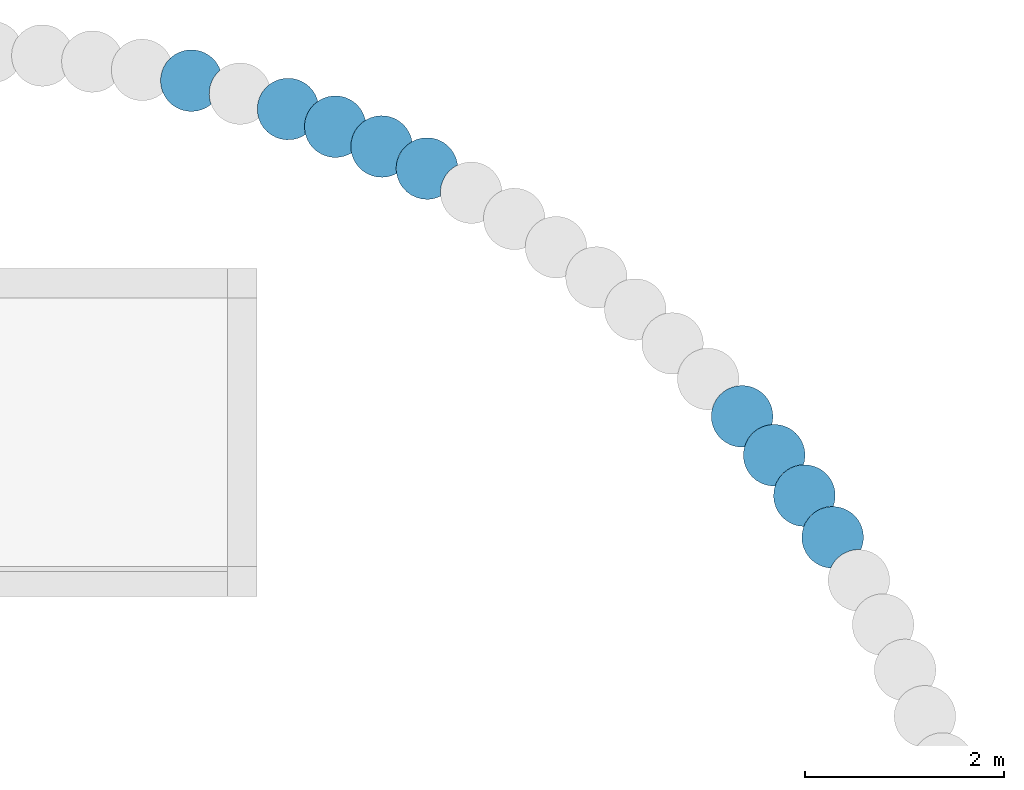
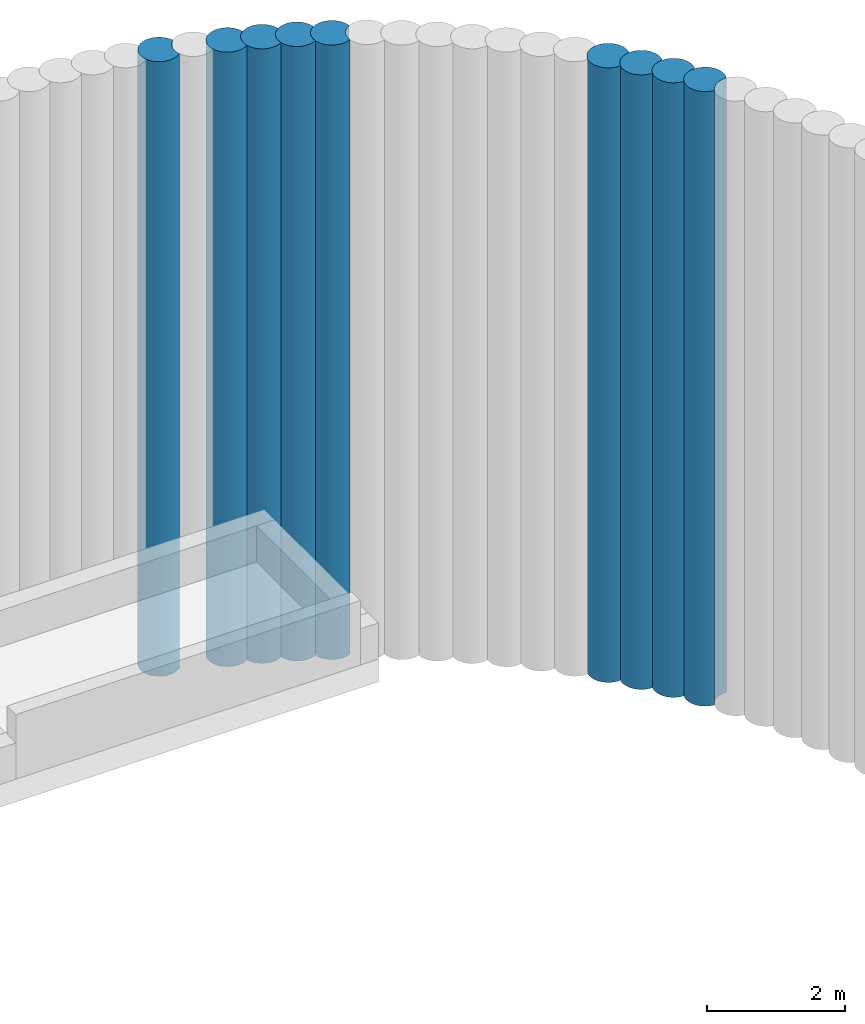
# One storey, part 14 of 16: 9 slabs.
"""IFC2X3 building model written with IfcOpenShell, lengths in centimetres."""

from ifc_helpers import new_model, entity, si_unit, converted_unit, derived_unit, direction, frame, frame_2d, origin, place, context, subcontext, project, spatial, polyline, circle_curve, parameter, trimmed, segment, composite_curve, outline, extrude, material, element, save


model = new_model("IFC2X3")

# Units and contexts
model_context = context("Model", 3, precision=0.001, world=origin(), true_north=direction((6.12303176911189e-17, 1.0)))
body_context = subcontext(model_context, "Body", "Model", "MODEL_VIEW")
ifc_project = project(units=[si_unit("LENGTHUNIT", "METRE", prefix="CENTI"), si_unit("AREAUNIT", "SQUARE_METRE"), si_unit("VOLUMEUNIT", "CUBIC_METRE"), converted_unit("PLANEANGLEUNIT", "DEGREE", entity("IfcRatioMeasure", 0.0174532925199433), si_unit("PLANEANGLEUNIT", "RADIAN"), dimensions=[0, 0, 0, 0, 0, 0, 0]), si_unit("MASSUNIT", "GRAM", prefix="KILO"), derived_unit("MASSDENSITYUNIT", [(si_unit("MASSUNIT", "GRAM", prefix="KILO"), 1), (si_unit("LENGTHUNIT", "METRE"), -3)]), si_unit("TIMEUNIT", "SECOND"), si_unit("FREQUENCYUNIT", "HERTZ"), si_unit("THERMODYNAMICTEMPERATUREUNIT", "DEGREE_CELSIUS"), derived_unit("THERMALTRANSMITTANCEUNIT", [(si_unit("MASSUNIT", "GRAM", prefix="KILO"), 1), (si_unit("THERMODYNAMICTEMPERATUREUNIT", "KELVIN"), -1), (si_unit("TIMEUNIT", "SECOND"), -3)]), derived_unit("VOLUMETRICFLOWRATEUNIT", [(si_unit("LENGTHUNIT", "METRE"), 3), (si_unit("TIMEUNIT", "SECOND"), -1)]), si_unit("ELECTRICCURRENTUNIT", "AMPERE"), si_unit("ELECTRICVOLTAGEUNIT", "VOLT"), si_unit("POWERUNIT", "WATT"), si_unit("FORCEUNIT", "NEWTON", prefix="KILO"), si_unit("ILLUMINANCEUNIT", "LUX"), si_unit("LUMINOUSFLUXUNIT", "LUMEN"), si_unit("LUMINOUSINTENSITYUNIT", "CANDELA"), derived_unit("USERDEFINED", [(si_unit("MASSUNIT", "GRAM", prefix="KILO"), -1), (si_unit("LENGTHUNIT", "METRE"), -2), (si_unit("TIMEUNIT", "SECOND"), 3), (si_unit("LUMINOUSFLUXUNIT", "LUMEN"), 1)]), derived_unit("LINEARVELOCITYUNIT", [(si_unit("LENGTHUNIT", "METRE"), 1), (si_unit("TIMEUNIT", "SECOND"), -1)]), si_unit("PRESSUREUNIT", "PASCAL"), derived_unit("USERDEFINED", [(si_unit("LENGTHUNIT", "METRE"), -2), (si_unit("MASSUNIT", "GRAM", prefix="KILO"), 1), (si_unit("TIMEUNIT", "SECOND"), -2)])], contexts=[model_context])

# Site, building, storey
site_placement = place(None, origin())
site = spatial("IfcSite", under=ifc_project, at=site_placement, Name="Default", CompositionType="ELEMENT")
building_placement = place(site_placement, origin())
building = spatial("IfcBuilding", under=site, at=building_placement, CompositionType="ELEMENT")
storey_placement = place(building_placement, frame((0.0, 0.0, -984.0)))
storey = spatial("IfcBuildingStorey", under=building, at=storey_placement, Name="Niveau Fond de fosse", CompositionType="ELEMENT", Elevation=-984.000000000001)

# Slabs
ifc_material = material(Name="Maçonnerie - Béton coulé sur place")
slab_1_placement = place(storey_placement, origin())
element("IfcSlab", 1, at=slab_1_placement, inside=storey, material=ifc_material, Name="Pieu béton - JBTP:600mm 2", ObjectType="Pieu béton - JBTP:600mm 2", PredefinedType="BASESLAB", context=body_context, shape_type="SweptSolid", body=[
    extrude(outline(composite_curve([segment(trimmed(circle_curve(frame_2d((1.18354648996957, -14.7318661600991), x_axis=(1.0, 0.0)), 30.9999999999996), [parameter(180.0)], [parameter(207.444291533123)], True, "PARAMETER"), True, "CONTINUOUS"), segment(trimmed(circle_curve(frame_2d((-22.2236636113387, -59.7464676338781), x_axis=(0.998867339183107, -0.0475819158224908)), 30.9999999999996), [parameter(30.1715642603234)], [parameter(100.334884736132)], True, "PARAMETER"), False, "CONTINUOUS"), segment(trimmed(circle_curve(frame_2d((1.18354648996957, -14.7318661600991), x_axis=(1.0, 0.0)), 30.9999999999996), [parameter(277.607612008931)], [parameter(4.07110999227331e-13)], True, "PARAMETER"), True, "CONTINUOUS"), segment(polyline([(32.183546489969, -14.7318661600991), (31.7068413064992, -9.31628922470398)]), True, "CONTINUOUS"), segment(polyline([(31.7068413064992, -9.31628922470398), (30.292145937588, -4.06934121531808)]), True, "CONTINUOUS"), segment(polyline([(30.292145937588, -4.06934121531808), (27.9815446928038, 0.850722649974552)]), True, "CONTINUOUS"), segment(polyline([(27.9815446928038, 0.850722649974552), (24.8625540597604, 5.27574740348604)]), True, "CONTINUOUS"), segment(polyline([(24.8625540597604, 5.27574740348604), (21.0196407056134, 9.09100869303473)]), True, "CONTINUOUS"), segment(polyline([(21.0196407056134, 9.09100869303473), (16.5713553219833, 12.1793831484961)]), True, "CONTINUOUS"), segment(polyline([(16.5713553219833, 12.1793831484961), (11.6531207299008, 14.446687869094)]), True, "CONTINUOUS"), segment(polyline([(11.6531207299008, 14.446687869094), (6.41465294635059, 15.8235838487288)]), True, "CONTINUOUS"), segment(polyline([(6.41465294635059, 15.8235838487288), (1.01547753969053, 16.2676782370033)]), True, "CONTINUOUS"), segment(polyline([(1.01547753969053, 16.2676782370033), (-4.38028118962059, 15.764656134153)]), True, "CONTINUOUS"), segment(polyline([(-4.38028118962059, 15.764656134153), (-9.56967916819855, 14.3433490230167)]), True, "CONTINUOUS"), segment(polyline([(-9.56967916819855, 14.3433490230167), (-14.4353628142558, 12.0459170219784)]), True, "CONTINUOUS"), segment(polyline([(-14.4353628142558, 12.0459170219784), (-18.8300295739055, 8.9421020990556)]), True, "CONTINUOUS"), segment(polyline([(-18.8300295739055, 8.9421020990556), (-22.6217091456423, 5.1253694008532)]), True, "CONTINUOUS"), segment(polyline([(-22.6217091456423, 5.1253694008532), (-25.6964633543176, 0.710448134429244)]), True, "CONTINUOUS"), segment(polyline([(-25.6964633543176, 0.710448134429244), (-27.9617477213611, -4.17005640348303)]), True, "CONTINUOUS"), segment(polyline([(-27.9617477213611, -4.17005640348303), (-29.3490361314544, -9.36890070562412)]), True, "CONTINUOUS"), segment(polyline([(-29.3490361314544, -9.36890070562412), (-29.81645351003, -14.731866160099)]), True, "CONTINUOUS")], self_intersect=False)), frame((883.557694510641, 582.933559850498, -300.0), z_axis=(0.0, 0.0, 1.0), x_axis=(0.517464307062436, 0.855704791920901, 0.0)), (0.0, 0.0, 1.0), 1084.0),
])
slab_2_placement = place(storey_placement, origin())
element("IfcSlab", 2, at=slab_2_placement, inside=storey, material=ifc_material, Name="Pieu béton - JBTP:600mm 2", ObjectType="Pieu béton - JBTP:600mm 2", PredefinedType="BASESLAB", context=body_context, shape_type="SweptSolid", body=[
    extrude(outline(composite_curve([segment(trimmed(circle_curve(frame_2d((1.18354648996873, -14.7318661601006), x_axis=(1.0, 0.0)), 30.9999999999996), [parameter(180.0)], [parameter(207.444291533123)], True, "PARAMETER"), True, "CONTINUOUS"), segment(trimmed(circle_curve(frame_2d((-22.2236636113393, -59.7464676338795), x_axis=(0.998867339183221, -0.047581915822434)), 30.9999999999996), [parameter(30.1715642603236)], [parameter(100.334884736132)], True, "PARAMETER"), False, "CONTINUOUS"), segment(trimmed(circle_curve(frame_2d((1.18354648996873, -14.7318661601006), x_axis=(1.0, 0.0)), 30.9999999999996), [parameter(277.607612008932)], [parameter(4.07110999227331e-13)], True, "PARAMETER"), True, "CONTINUOUS"), segment(polyline([(32.1835464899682, -14.7318661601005), (31.706841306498, -9.31628922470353)]), True, "CONTINUOUS"), segment(polyline([(31.706841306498, -9.31628922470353), (30.2921459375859, -4.06934121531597)]), True, "CONTINUOUS"), segment(polyline([(30.2921459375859, -4.06934121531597), (27.9815446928, 0.850722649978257)]), True, "CONTINUOUS"), segment(polyline([(27.9815446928, 0.850722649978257), (24.8625540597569, 5.27574740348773)]), True, "CONTINUOUS"), segment(polyline([(24.8625540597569, 5.27574740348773), (21.0196407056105, 9.09100869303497)]), True, "CONTINUOUS"), segment(polyline([(21.0196407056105, 9.09100869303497), (16.5713553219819, 12.1793831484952)]), True, "CONTINUOUS"), segment(polyline([(16.5713553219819, 12.1793831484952), (11.6531207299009, 14.4466878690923)]), True, "CONTINUOUS"), segment(polyline([(11.6531207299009, 14.4466878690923), (6.41465294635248, 15.8235838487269)]), True, "CONTINUOUS"), segment(polyline([(6.41465294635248, 15.8235838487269), (1.01547753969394, 16.267678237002)]), True, "CONTINUOUS"), segment(polyline([(1.01547753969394, 16.267678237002), (-4.38028118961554, 15.7646561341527)]), True, "CONTINUOUS"), segment(polyline([(-4.38028118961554, 15.7646561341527), (-9.56967916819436, 14.3433490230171)]), True, "CONTINUOUS"), segment(polyline([(-9.56967916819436, 14.3433490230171), (-14.4353628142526, 12.0459170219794)]), True, "CONTINUOUS"), segment(polyline([(-14.4353628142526, 12.0459170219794), (-18.8300295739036, 8.94210209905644)]), True, "CONTINUOUS"), segment(polyline([(-18.8300295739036, 8.94210209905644), (-22.6217091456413, 5.12536940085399)]), True, "CONTINUOUS"), segment(polyline([(-22.6217091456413, 5.12536940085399), (-25.6964633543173, 0.710448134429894)]), True, "CONTINUOUS"), segment(polyline([(-25.6964633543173, 0.710448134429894), (-27.9617477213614, -4.17005640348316)]), True, "CONTINUOUS"), segment(polyline([(-27.9617477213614, -4.17005640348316), (-29.3490361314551, -9.36890070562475)]), True, "CONTINUOUS"), segment(polyline([(-29.3490361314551, -9.36890070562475), (-29.8164535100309, -14.7318661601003)]), True, "CONTINUOUS")], self_intersect=False)), frame((854.81982775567, 624.314661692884, -300.0), z_axis=(0.0, 0.0, 1.0), x_axis=(0.476162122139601, 0.87935751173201, 0.0)), (0.0, 0.0, 1.0), 1084.0),
])
slab_3_placement = place(storey_placement, origin())
element("IfcSlab", 3, at=slab_3_placement, inside=storey, material=ifc_material, Name="Pieu béton - JBTP:600mm 2", ObjectType="Pieu béton - JBTP:600mm 2", PredefinedType="BASESLAB", context=body_context, shape_type="SweptSolid", body=[
    extrude(outline(composite_curve([segment(trimmed(circle_curve(frame_2d((1.18354648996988, -14.7318661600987), x_axis=(1.0, 0.0)), 30.9999999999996), [parameter(180.0)], [parameter(207.444291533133)], True, "PARAMETER"), True, "CONTINUOUS"), segment(trimmed(circle_curve(frame_2d((-22.223663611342, -59.7464676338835), x_axis=(0.998867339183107, -0.0475819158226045)), 30.9999999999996), [parameter(30.1715642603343)], [parameter(100.334884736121)], True, "PARAMETER"), False, "CONTINUOUS"), segment(trimmed(circle_curve(frame_2d((1.18354648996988, -14.7318661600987), x_axis=(1.0, 0.0)), 30.9999999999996), [parameter(277.60761200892)], [parameter(4.07110999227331e-13)], True, "PARAMETER"), True, "CONTINUOUS"), segment(polyline([(32.1835464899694, -14.7318661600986), (31.7068413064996, -9.31628922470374)]), True, "CONTINUOUS"), segment(polyline([(31.7068413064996, -9.31628922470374), (30.2921459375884, -4.06934121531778)]), True, "CONTINUOUS"), segment(polyline([(30.2921459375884, -4.06934121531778), (27.9815446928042, 0.85072264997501)]), True, "CONTINUOUS"), segment(polyline([(27.9815446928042, 0.85072264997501), (24.8625540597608, 5.27574740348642)]), True, "CONTINUOUS"), segment(polyline([(24.8625540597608, 5.27574740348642), (21.0196407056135, 9.09100869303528)]), True, "CONTINUOUS"), segment(polyline([(21.0196407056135, 9.09100869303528), (16.5713553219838, 12.1793831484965)]), True, "CONTINUOUS"), segment(polyline([(16.5713553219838, 12.1793831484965), (11.653120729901, 14.4466878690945)]), True, "CONTINUOUS"), segment(polyline([(11.653120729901, 14.4466878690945), (6.41465294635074, 15.8235838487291)]), True, "CONTINUOUS"), segment(polyline([(6.41465294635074, 15.8235838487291), (1.01547753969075, 16.2676782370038)]), True, "CONTINUOUS"), segment(polyline([(1.01547753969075, 16.2676782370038), (-4.38028118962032, 15.7646561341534)]), True, "CONTINUOUS"), segment(polyline([(-4.38028118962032, 15.7646561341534), (-9.56967916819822, 14.3433490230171)]), True, "CONTINUOUS"), segment(polyline([(-9.56967916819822, 14.3433490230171), (-14.4353628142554, 12.0459170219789)]), True, "CONTINUOUS"), segment(polyline([(-14.4353628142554, 12.0459170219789), (-18.8300295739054, 8.94210209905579)]), True, "CONTINUOUS"), segment(polyline([(-18.8300295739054, 8.94210209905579), (-22.621709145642, 5.12536940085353)]), True, "CONTINUOUS"), segment(polyline([(-22.621709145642, 5.12536940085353), (-25.6964633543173, 0.710448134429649)]), True, "CONTINUOUS"), segment(polyline([(-25.6964633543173, 0.710448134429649), (-27.9617477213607, -4.1700564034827)]), True, "CONTINUOUS"), segment(polyline([(-27.9617477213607, -4.1700564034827), (-29.3490361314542, -9.3689007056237)]), True, "CONTINUOUS"), segment(polyline([(-29.3490361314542, -9.3689007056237), (-29.8164535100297, -14.7318661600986)]), True, "CONTINUOUS")], self_intersect=False)), frame((824.145519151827, 664.281490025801, -300.0), z_axis=(0.0, 0.0, 1.0), x_axis=(0.433781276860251, 0.901018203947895, 0.0)), (0.0, 0.0, 1.0), 1084.0),
])
slab_4_placement = place(storey_placement, origin())
element("IfcSlab", 4, at=slab_4_placement, inside=storey, material=ifc_material, Name="Pieu béton - JBTP:600mm 2", ObjectType="Pieu béton - JBTP:600mm 2", PredefinedType="BASESLAB", context=body_context, shape_type="SweptSolid", body=[
    extrude(outline(composite_curve([segment(trimmed(circle_curve(frame_2d((1.18354648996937, -14.731866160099), x_axis=(1.0, 0.0)), 30.9999999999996), [parameter(180.0)], [parameter(207.444291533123)], True, "PARAMETER"), True, "CONTINUOUS"), segment(trimmed(circle_curve(frame_2d((-22.2236636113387, -59.7464676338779), x_axis=(0.998867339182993, -0.047581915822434)), 30.9999999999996), [parameter(30.1715642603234)], [parameter(100.334884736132)], True, "PARAMETER"), False, "CONTINUOUS"), segment(trimmed(circle_curve(frame_2d((1.18354648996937, -14.731866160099), x_axis=(1.0, 0.0)), 30.9999999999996), [parameter(277.607612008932)], [parameter(4.07110999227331e-13)], True, "PARAMETER"), True, "CONTINUOUS"), segment(polyline([(32.183546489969, -14.731866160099), (31.7068413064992, -9.31628922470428)]), True, "CONTINUOUS"), segment(polyline([(31.7068413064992, -9.31628922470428), (30.2921459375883, -4.06934121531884)]), True, "CONTINUOUS"), segment(polyline([(30.2921459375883, -4.06934121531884), (27.9815446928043, 0.850722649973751)]), True, "CONTINUOUS"), segment(polyline([(27.9815446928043, 0.850722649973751), (24.862554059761, 5.27574740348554)]), True, "CONTINUOUS"), segment(polyline([(24.862554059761, 5.27574740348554), (21.0196407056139, 9.09100869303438)]), True, "CONTINUOUS"), segment(polyline([(21.0196407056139, 9.09100869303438), (16.5713553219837, 12.1793831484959)]), True, "CONTINUOUS"), segment(polyline([(16.5713553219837, 12.1793831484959), (11.6531207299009, 14.4466878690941)]), True, "CONTINUOUS"), segment(polyline([(11.6531207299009, 14.4466878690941), (6.41465294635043, 15.8235838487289)]), True, "CONTINUOUS"), segment(polyline([(6.41465294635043, 15.8235838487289), (1.01547753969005, 16.2676782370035)]), True, "CONTINUOUS"), segment(polyline([(1.01547753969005, 16.2676782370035), (-4.38028118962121, 15.764656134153)]), True, "CONTINUOUS"), segment(polyline([(-4.38028118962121, 15.764656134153), (-9.56967916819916, 14.3433490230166)]), True, "CONTINUOUS"), segment(polyline([(-9.56967916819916, 14.3433490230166), (-14.4353628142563, 12.0459170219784)]), True, "CONTINUOUS"), segment(polyline([(-14.4353628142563, 12.0459170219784), (-18.830029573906, 8.94210209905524)]), True, "CONTINUOUS"), segment(polyline([(-18.830029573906, 8.94210209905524), (-22.6217091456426, 5.12536940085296)]), True, "CONTINUOUS"), segment(polyline([(-22.6217091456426, 5.12536940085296), (-25.6964633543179, 0.710448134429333)]), True, "CONTINUOUS"), segment(polyline([(-25.6964633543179, 0.710448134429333), (-27.9617477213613, -4.17005640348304)]), True, "CONTINUOUS"), segment(polyline([(-27.9617477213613, -4.17005640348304), (-29.3490361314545, -9.36890070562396)]), True, "CONTINUOUS"), segment(polyline([(-29.3490361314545, -9.36890070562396), (-29.8164535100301, -14.7318661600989)]), True, "CONTINUOUS")], self_intersect=False)), frame((791.604255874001, 702.743507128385, -300.0), z_axis=(0.0, 0.0, 1.0), x_axis=(0.390417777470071, 0.920637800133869, 0.0)), (0.0, 0.0, 1.0), 1084.0),
])
slab_5_placement = place(storey_placement, origin())
element("IfcSlab", 5, at=slab_5_placement, inside=storey, material=ifc_material, Name="Pieu béton - JBTP:600mm 2", ObjectType="Pieu béton - JBTP:600mm 2", PredefinedType="BASESLAB", context=body_context, shape_type="SweptSolid", body=[
    extrude(outline(composite_curve([segment(trimmed(circle_curve(frame_2d((1.18354648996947, -14.731866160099), x_axis=(1.0, 0.0)), 30.9999999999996), [parameter(180.0)], [parameter(207.444291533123)], True, "PARAMETER"), True, "CONTINUOUS"), segment(trimmed(circle_curve(frame_2d((-22.2236636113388, -59.746467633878), x_axis=(0.998867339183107, -0.047581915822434)), 30.9999999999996), [parameter(30.1715642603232)], [parameter(100.334884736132)], True, "PARAMETER"), False, "CONTINUOUS"), segment(trimmed(circle_curve(frame_2d((1.18354648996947, -14.731866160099), x_axis=(1.0, 0.0)), 30.9999999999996), [parameter(277.607612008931)], [parameter(4.07110999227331e-13)], True, "PARAMETER"), True, "CONTINUOUS"), segment(polyline([(32.1835464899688, -14.731866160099), (31.7068413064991, -9.31628922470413)]), True, "CONTINUOUS"), segment(polyline([(31.7068413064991, -9.31628922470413), (30.2921459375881, -4.06934121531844)]), True, "CONTINUOUS"), segment(polyline([(30.2921459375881, -4.06934121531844), (27.9815446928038, 0.850722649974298)]), True, "CONTINUOUS"), segment(polyline([(27.9815446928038, 0.850722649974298), (24.8625540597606, 5.27574740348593)]), True, "CONTINUOUS"), segment(polyline([(24.8625540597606, 5.27574740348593), (21.0196407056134, 9.09100869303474)]), True, "CONTINUOUS"), segment(polyline([(21.0196407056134, 9.09100869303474), (16.5713553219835, 12.1793831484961)]), True, "CONTINUOUS"), segment(polyline([(16.5713553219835, 12.1793831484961), (11.6531207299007, 14.4466878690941)]), True, "CONTINUOUS"), segment(polyline([(11.6531207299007, 14.4466878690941), (6.41465294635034, 15.8235838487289)]), True, "CONTINUOUS"), segment(polyline([(6.41465294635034, 15.8235838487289), (1.01547753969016, 16.2676782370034)]), True, "CONTINUOUS"), segment(polyline([(1.01547753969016, 16.2676782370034), (-4.38028118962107, 15.764656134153)]), True, "CONTINUOUS"), segment(polyline([(-4.38028118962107, 15.764656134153), (-9.56967916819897, 14.3433490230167)]), True, "CONTINUOUS"), segment(polyline([(-9.56967916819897, 14.3433490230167), (-14.4353628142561, 12.0459170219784)]), True, "CONTINUOUS"), segment(polyline([(-14.4353628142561, 12.0459170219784), (-18.8300295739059, 8.94210209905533)]), True, "CONTINUOUS"), segment(polyline([(-18.8300295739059, 8.94210209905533), (-22.6217091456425, 5.125369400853)]), True, "CONTINUOUS"), segment(polyline([(-22.6217091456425, 5.125369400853), (-25.6964633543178, 0.710448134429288)]), True, "CONTINUOUS"), segment(polyline([(-25.6964633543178, 0.710448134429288), (-27.9617477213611, -4.17005640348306)]), True, "CONTINUOUS"), segment(polyline([(-27.9617477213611, -4.17005640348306), (-29.3490361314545, -9.36890070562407)]), True, "CONTINUOUS"), segment(polyline([(-29.3490361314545, -9.36890070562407), (-29.8164535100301, -14.7318661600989)]), True, "CONTINUOUS")], self_intersect=False)), frame((473.716629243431, 946.614118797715, -300.0), z_axis=(0.0, 0.0, 1.0), x_axis=(0.0202848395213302, 0.999794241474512, 0.0)), (0.0, 0.0, 1.0), 1084.0),
])
slab_6_placement = place(storey_placement, origin())
element("IfcSlab", 6, at=slab_6_placement, inside=storey, material=ifc_material, Name="Pieu béton - JBTP:600mm 2", ObjectType="Pieu béton - JBTP:600mm 2", PredefinedType="BASESLAB", context=body_context, shape_type="SweptSolid", body=[
    extrude(outline(composite_curve([segment(trimmed(circle_curve(frame_2d((1.18354648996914, -14.7318661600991), x_axis=(1.0, 0.0)), 30.9999999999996), [parameter(180.0)], [parameter(207.444291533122)], True, "PARAMETER"), True, "CONTINUOUS"), segment(trimmed(circle_curve(frame_2d((-22.2236636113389, -59.7464676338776), x_axis=(0.998867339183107, -0.047581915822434)), 30.9999999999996), [parameter(30.1715642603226)], [parameter(100.334884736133)], True, "PARAMETER"), False, "CONTINUOUS"), segment(trimmed(circle_curve(frame_2d((1.18354648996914, -14.7318661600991), x_axis=(1.0, 0.0)), 30.9999999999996), [parameter(277.607612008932)], [parameter(4.07110999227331e-13)], True, "PARAMETER"), True, "CONTINUOUS"), segment(polyline([(32.1835464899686, -14.7318661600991), (31.7068413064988, -9.31628922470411)]), True, "CONTINUOUS"), segment(polyline([(31.7068413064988, -9.31628922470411), (30.2921459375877, -4.06934121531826)]), True, "CONTINUOUS"), segment(polyline([(30.2921459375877, -4.06934121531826), (27.9815446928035, 0.850722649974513)]), True, "CONTINUOUS"), segment(polyline([(27.9815446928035, 0.850722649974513), (24.8625540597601, 5.2757474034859)]), True, "CONTINUOUS"), segment(polyline([(24.8625540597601, 5.2757474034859), (21.0196407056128, 9.09100869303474)]), True, "CONTINUOUS"), segment(polyline([(21.0196407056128, 9.09100869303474), (16.571355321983, 12.1793831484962)]), True, "CONTINUOUS"), segment(polyline([(16.571355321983, 12.1793831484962), (11.6531207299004, 14.446687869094)]), True, "CONTINUOUS"), segment(polyline([(11.6531207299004, 14.446687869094), (6.41465294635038, 15.8235838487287)]), True, "CONTINUOUS"), segment(polyline([(6.41465294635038, 15.8235838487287), (1.01547753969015, 16.2676782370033)]), True, "CONTINUOUS"), segment(polyline([(1.01547753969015, 16.2676782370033), (-4.3802811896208, 15.764656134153)]), True, "CONTINUOUS"), segment(polyline([(-4.3802811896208, 15.764656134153), (-9.56967916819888, 14.3433490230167)]), True, "CONTINUOUS"), segment(polyline([(-9.56967916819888, 14.3433490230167), (-14.435362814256, 12.0459170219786)]), True, "CONTINUOUS"), segment(polyline([(-14.435362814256, 12.0459170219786), (-18.8300295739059, 8.94210209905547)]), True, "CONTINUOUS"), segment(polyline([(-18.8300295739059, 8.94210209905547), (-22.6217091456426, 5.1253694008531)]), True, "CONTINUOUS"), segment(polyline([(-22.6217091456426, 5.1253694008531), (-25.696463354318, 0.710448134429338)]), True, "CONTINUOUS"), segment(polyline([(-25.696463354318, 0.710448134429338), (-27.9617477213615, -4.17005640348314)]), True, "CONTINUOUS"), segment(polyline([(-27.9617477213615, -4.17005640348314), (-29.3490361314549, -9.36890070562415)]), True, "CONTINUOUS"), segment(polyline([(-29.3490361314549, -9.36890070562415), (-29.8164535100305, -14.731866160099)]), True, "CONTINUOUS")], self_intersect=False)), frame((428.138355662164, 968.082270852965, -300.0), z_axis=(0.0, 0.0, 1.0), x_axis=(-0.0273102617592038, 0.999627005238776, 0.0)), (0.0, 0.0, 1.0), 1084.0),
])
slab_7_placement = place(storey_placement, origin())
element("IfcSlab", 7, at=slab_7_placement, inside=storey, material=ifc_material, Name="Pieu béton - JBTP:600mm 2", ObjectType="Pieu béton - JBTP:600mm 2", PredefinedType="BASESLAB", context=body_context, shape_type="SweptSolid", body=[
    extrude(outline(composite_curve([segment(trimmed(circle_curve(frame_2d((1.18354648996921, -14.731866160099), x_axis=(1.0, 0.0)), 30.9999999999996), [parameter(180.0)], [parameter(207.444291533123)], True, "PARAMETER"), True, "CONTINUOUS"), segment(trimmed(circle_curve(frame_2d((-22.2236636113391, -59.7464676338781), x_axis=(0.998867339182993, -0.0475819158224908)), 30.9999999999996), [parameter(30.1715642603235)], [parameter(100.334884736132)], True, "PARAMETER"), False, "CONTINUOUS"), segment(trimmed(circle_curve(frame_2d((1.18354648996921, -14.731866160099), x_axis=(1.0, 0.0)), 30.9999999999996), [parameter(277.607612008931)], [parameter(4.07110999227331e-13)], True, "PARAMETER"), True, "CONTINUOUS"), segment(polyline([(32.1835464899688, -14.731866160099), (31.7068413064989, -9.31628922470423)]), True, "CONTINUOUS"), segment(polyline([(31.7068413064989, -9.31628922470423), (30.2921459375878, -4.06934121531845)]), True, "CONTINUOUS"), segment(polyline([(30.2921459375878, -4.06934121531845), (27.9815446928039, 0.850722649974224)]), True, "CONTINUOUS"), segment(polyline([(27.9815446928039, 0.850722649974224), (24.8625540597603, 5.27574740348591)]), True, "CONTINUOUS"), segment(polyline([(24.8625540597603, 5.27574740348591), (21.0196407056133, 9.09100869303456)]), True, "CONTINUOUS"), segment(polyline([(21.0196407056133, 9.09100869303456), (16.5713553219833, 12.179383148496)]), True, "CONTINUOUS"), segment(polyline([(16.5713553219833, 12.179383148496), (11.6531207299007, 14.446687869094)]), True, "CONTINUOUS"), segment(polyline([(11.6531207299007, 14.446687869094), (6.41465294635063, 15.8235838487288)]), True, "CONTINUOUS"), segment(polyline([(6.41465294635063, 15.8235838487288), (1.01547753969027, 16.2676782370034)]), True, "CONTINUOUS"), segment(polyline([(1.01547753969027, 16.2676782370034), (-4.38028118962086, 15.7646561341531)]), True, "CONTINUOUS"), segment(polyline([(-4.38028118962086, 15.7646561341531), (-9.56967916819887, 14.3433490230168)]), True, "CONTINUOUS"), segment(polyline([(-9.56967916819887, 14.3433490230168), (-14.4353628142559, 12.0459170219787)]), True, "CONTINUOUS"), segment(polyline([(-14.4353628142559, 12.0459170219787), (-18.8300295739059, 8.94210209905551)]), True, "CONTINUOUS"), segment(polyline([(-18.8300295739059, 8.94210209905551), (-22.6217091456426, 5.12536940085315)]), True, "CONTINUOUS"), segment(polyline([(-22.6217091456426, 5.12536940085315), (-25.6964633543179, 0.71044813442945)]), True, "CONTINUOUS"), segment(polyline([(-25.6964633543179, 0.71044813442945), (-27.9617477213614, -4.17005640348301)]), True, "CONTINUOUS"), segment(polyline([(-27.9617477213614, -4.17005640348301), (-29.3490361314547, -9.36890070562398)]), True, "CONTINUOUS"), segment(polyline([(-29.3490361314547, -9.36890070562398), (-29.8164535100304, -14.7318661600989)]), True, "CONTINUOUS")], self_intersect=False)), frame((381.590211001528, 987.357405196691, -300.0), z_axis=(0.0, 0.0, 1.0), x_axis=(-0.0748434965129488, 0.997195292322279, 0.0)), (0.0, 0.0, 1.0), 1084.0),
])
slab_8_placement = place(storey_placement, origin())
element("IfcSlab", 8, at=slab_8_placement, inside=storey, material=ifc_material, Name="Pieu béton - JBTP:600mm 2", ObjectType="Pieu béton - JBTP:600mm 2", PredefinedType="BASESLAB", context=body_context, shape_type="SweptSolid", body=[
    extrude(outline(composite_curve([segment(trimmed(circle_curve(frame_2d((1.18354648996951, -14.731866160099), x_axis=(1.0, 0.0)), 30.9999999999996), [parameter(180.0)], [parameter(207.444291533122)], True, "PARAMETER"), True, "CONTINUOUS"), segment(trimmed(circle_curve(frame_2d((-22.2236636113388, -59.7464676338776), x_axis=(0.998867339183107, -0.0475819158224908)), 30.9999999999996), [parameter(30.1715642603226)], [parameter(100.334884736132)], True, "PARAMETER"), False, "CONTINUOUS"), segment(trimmed(circle_curve(frame_2d((1.18354648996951, -14.731866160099), x_axis=(1.0, 0.0)), 30.9999999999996), [parameter(277.607612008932)], [parameter(4.07110999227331e-13)], True, "PARAMETER"), True, "CONTINUOUS"), segment(polyline([(32.1835464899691, -14.731866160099), (31.7068413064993, -9.31628922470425)]), True, "CONTINUOUS"), segment(polyline([(31.7068413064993, -9.31628922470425), (30.2921459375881, -4.06934121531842)]), True, "CONTINUOUS"), segment(polyline([(30.2921459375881, -4.06934121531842), (27.9815446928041, 0.850722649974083)]), True, "CONTINUOUS"), segment(polyline([(27.9815446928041, 0.850722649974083), (24.8625540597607, 5.2757474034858)]), True, "CONTINUOUS"), segment(polyline([(24.8625540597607, 5.2757474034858), (21.0196407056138, 9.09100869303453)]), True, "CONTINUOUS"), segment(polyline([(21.0196407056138, 9.09100869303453), (16.5713553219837, 12.1793831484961)]), True, "CONTINUOUS"), segment(polyline([(16.5713553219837, 12.1793831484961), (11.6531207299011, 14.4466878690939)]), True, "CONTINUOUS"), segment(polyline([(11.6531207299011, 14.4466878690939), (6.41465294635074, 15.8235838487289)]), True, "CONTINUOUS"), segment(polyline([(6.41465294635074, 15.8235838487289), (1.01547753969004, 16.2676782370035)]), True, "CONTINUOUS"), segment(polyline([(1.01547753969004, 16.2676782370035), (-4.38028118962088, 15.764656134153)]), True, "CONTINUOUS"), segment(polyline([(-4.38028118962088, 15.764656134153), (-9.56967916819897, 14.3433490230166)]), True, "CONTINUOUS"), segment(polyline([(-9.56967916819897, 14.3433490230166), (-14.4353628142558, 12.0459170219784)]), True, "CONTINUOUS"), segment(polyline([(-14.4353628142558, 12.0459170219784), (-18.8300295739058, 8.94210209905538)]), True, "CONTINUOUS"), segment(polyline([(-18.8300295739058, 8.94210209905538), (-22.6217091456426, 5.12536940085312)]), True, "CONTINUOUS"), segment(polyline([(-22.6217091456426, 5.12536940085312), (-25.6964633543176, 0.710448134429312)]), True, "CONTINUOUS"), segment(polyline([(-25.6964633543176, 0.710448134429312), (-27.9617477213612, -4.17005640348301)]), True, "CONTINUOUS"), segment(polyline([(-27.9617477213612, -4.17005640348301), (-29.3490361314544, -9.36890070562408)]), True, "CONTINUOUS"), segment(polyline([(-29.3490361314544, -9.36890070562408), (-29.8164535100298, -14.731866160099)]), True, "CONTINUOUS")], self_intersect=False)), frame((334.177641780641, 1004.39585745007, -300.0), z_axis=(0.0, 0.0, 1.0), x_axis=(-0.122207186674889, 0.992504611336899, 0.0)), (0.0, 0.0, 1.0), 1084.0),
])
slab_9_placement = place(storey_placement, origin())
element("IfcSlab", 9, at=slab_9_placement, inside=storey, material=ifc_material, Name="Pieu béton - JBTP:600mm 2", ObjectType="Pieu béton - JBTP:600mm 2", PredefinedType="BASESLAB", context=body_context, shape_type="SweptSolid", body=[
    extrude(outline(composite_curve([segment(trimmed(circle_curve(frame_2d((1.18354648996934, -14.7318661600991), x_axis=(1.0, 0.0)), 30.9999999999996), [parameter(180.0)], [parameter(207.444291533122)], True, "PARAMETER"), True, "CONTINUOUS"), segment(trimmed(circle_curve(frame_2d((-22.2236636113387, -59.7464676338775), x_axis=(0.998867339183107, -0.047581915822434)), 30.9999999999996), [parameter(30.1715642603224)], [parameter(100.334884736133)], True, "PARAMETER"), False, "CONTINUOUS"), segment(trimmed(circle_curve(frame_2d((1.18354648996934, -14.7318661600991), x_axis=(1.0, 0.0)), 30.9999999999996), [parameter(277.607612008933)], [parameter(4.07110999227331e-13)], True, "PARAMETER"), True, "CONTINUOUS"), segment(polyline([(32.1835464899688, -14.7318661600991), (31.7068413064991, -9.31628922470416)]), True, "CONTINUOUS"), segment(polyline([(31.7068413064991, -9.31628922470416), (30.2921459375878, -4.06934121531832)]), True, "CONTINUOUS"), segment(polyline([(30.2921459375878, -4.06934121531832), (27.9815446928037, 0.850722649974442)]), True, "CONTINUOUS"), segment(polyline([(27.9815446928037, 0.850722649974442), (24.8625540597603, 5.27574740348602)]), True, "CONTINUOUS"), segment(polyline([(24.8625540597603, 5.27574740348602), (21.019640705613, 9.09100869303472)]), True, "CONTINUOUS"), segment(polyline([(21.019640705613, 9.09100869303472), (16.5713553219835, 12.179383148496)]), True, "CONTINUOUS"), segment(polyline([(16.5713553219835, 12.179383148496), (11.6531207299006, 14.446687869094)]), True, "CONTINUOUS"), segment(polyline([(11.6531207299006, 14.446687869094), (6.41465294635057, 15.8235838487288)]), True, "CONTINUOUS"), segment(polyline([(6.41465294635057, 15.8235838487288), (1.01547753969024, 16.2676782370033)]), True, "CONTINUOUS"), segment(polyline([(1.01547753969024, 16.2676782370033), (-4.38028118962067, 15.764656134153)]), True, "CONTINUOUS"), segment(polyline([(-4.38028118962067, 15.764656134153), (-9.56967916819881, 14.3433490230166)]), True, "CONTINUOUS"), segment(polyline([(-9.56967916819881, 14.3433490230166), (-14.4353628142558, 12.0459170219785)]), True, "CONTINUOUS"), segment(polyline([(-14.4353628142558, 12.0459170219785), (-18.8300295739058, 8.94210209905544)]), True, "CONTINUOUS"), segment(polyline([(-18.8300295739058, 8.94210209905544), (-22.6217091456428, 5.12536940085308)]), True, "CONTINUOUS"), segment(polyline([(-22.6217091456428, 5.12536940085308), (-25.696463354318, 0.710448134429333)]), True, "CONTINUOUS"), segment(polyline([(-25.696463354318, 0.710448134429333), (-27.9617477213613, -4.1700564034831)]), True, "CONTINUOUS"), segment(polyline([(-27.9617477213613, -4.1700564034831), (-29.3490361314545, -9.36890070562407)]), True, "CONTINUOUS"), segment(polyline([(-29.3490361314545, -9.36890070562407), (-29.8164535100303, -14.731866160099)]), True, "CONTINUOUS")], self_intersect=False)), frame((237.190563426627, 1031.61347962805, -300.0), z_axis=(0.0, 0.0, 1.0), x_axis=(-0.215997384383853, 0.976393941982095, 0.0)), (0.0, 0.0, 1.0), 1084.0),
])

save(model, "model.ifc")
